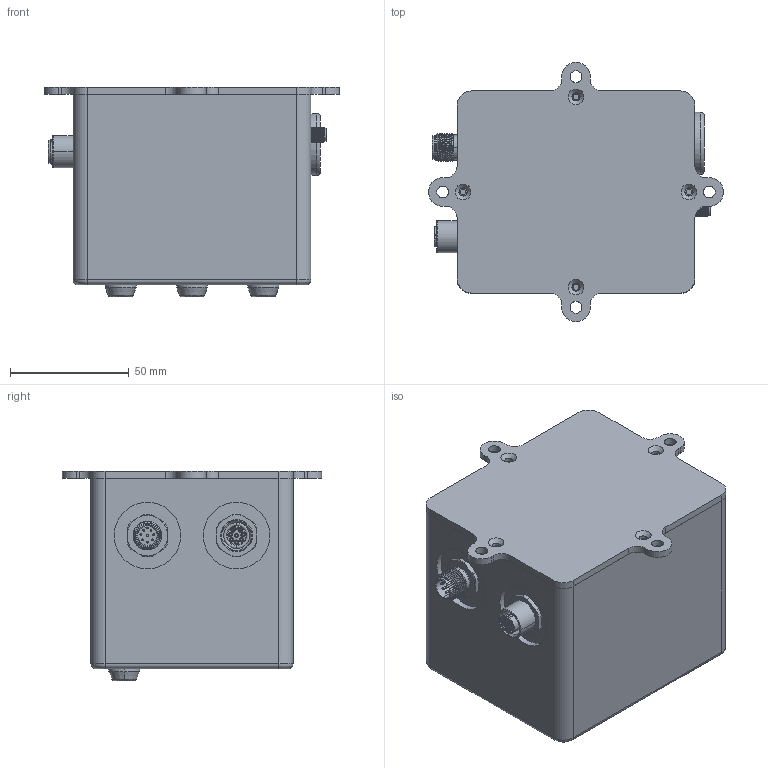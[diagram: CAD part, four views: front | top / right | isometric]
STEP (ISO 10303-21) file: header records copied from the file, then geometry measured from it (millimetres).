
FILE_DESCRIPTION(('FreeCAD Model'),'2;1');
FILE_NAME('Open CASCADE Shape Model','2026-07-20T18:16:22',(''),(''), 'Open CASCADE STEP processor 7.8','FreeCAD','Unknown');
FILE_SCHEMA(('AUTOMOTIVE_DESIGN { 1 0 10303 214 1 1 1 1 }'));
Length unit declared in the file: millimetre
Products named in the file (16): Receiver_Housing_1_8; Array; lensje; Sensor Bulkhead Female; C-T4171220008-001; Sensor Bulkhead Male; C-T4171320008-001; SMA; SOLID; SOLID001; Lid; Assembly; Base; Body; USB-CAP; Fillet001
Assembly tree (17 placements, depth 4):
  Receiver_Housing_1_8
    Array
      lensje  x3
    Sensor Bulkhead Female
      C-T4171220008-001
    Sensor Bulkhead Male
      C-T4171320008-001
    SMA
      SOLID
      SOLID001
    Lid
    Assembly
      Base
        Body
      USB-CAP
        Fillet001
Bounding box: 124 x 109 x 88 mm (x, y, z)
Volume: 214176.9 mm3; surface area: 104885.3 mm2
Topology: 10 solids, 10 shells, 740 faces, 1758 edges, 1123 vertices
Faces by surface type: cylinder 296, plane 234, cone 118, bspline 55, torus 35, sphere 2
Full cylindrical faces by diameter (mm): 2.5 x8, 3.4 x4, 5 x4, 8.1 x3, 14.8 x3, 26 x1, 28 x2
Entity records: 44834 total; most frequent: CARTESIAN_POINT 27648, ORIENTED_EDGE 3420, DIRECTION 3419, EDGE_CURVE 1710, AXIS2_PLACEMENT_3D 1370, VERTEX_POINT 1095, FACE_BOUND 829, EDGE_LOOP 829
